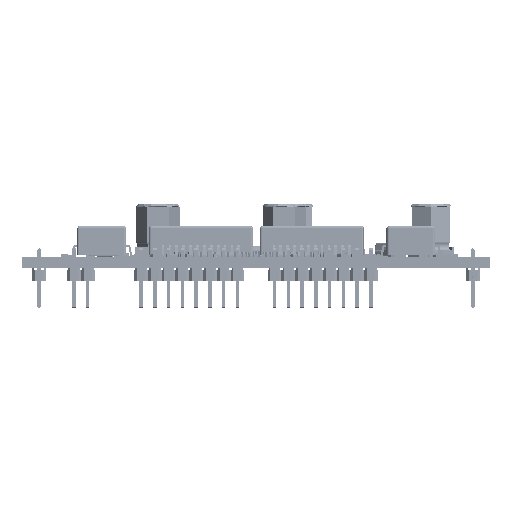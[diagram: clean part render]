
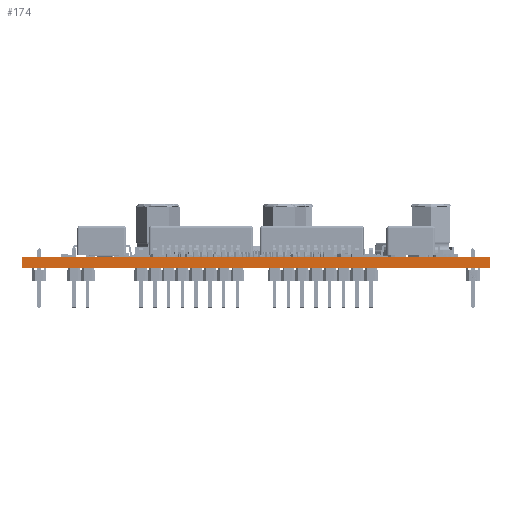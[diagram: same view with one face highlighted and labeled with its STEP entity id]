
A CAD part, front view. The second image highlights one B-rep face of the part: STEP entity #174.
In plain terms, the highlighted planar face has unit normal (0, -1, 0).
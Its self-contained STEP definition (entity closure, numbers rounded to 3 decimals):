
#119=CARTESIAN_POINT('',(67.987,0.013,1.6));
#120=VERTEX_POINT('',#119);
#127=CARTESIAN_POINT('',(67.987,0.013,0.));
#128=VERTEX_POINT('',#127);
#129=CARTESIAN_POINT('',(67.987,0.013,1.6));
#130=DIRECTION('',(0.,0.,-1.));
#131=VECTOR('',#130,1.6);
#132=LINE('',#129,#131);
#133=EDGE_CURVE('',#120,#128,#132,.T.);
#144=CARTESIAN_POINT('',(67.987,0.013,0.));
#145=DIRECTION('',(-1.,0.,0.));
#146=DIRECTION('',(-0.,-1.,-0.));
#147=AXIS2_PLACEMENT_3D('',#144,#146,#145);
#148=PLANE('',#147);
#149=ORIENTED_EDGE('',*,*,#133,.F.);
#150=CARTESIAN_POINT('',(0.013,0.013,1.6));
#151=VERTEX_POINT('',#150);
#152=CARTESIAN_POINT('',(67.987,0.013,1.6));
#153=DIRECTION('',(-1.,0.,0.));
#154=VECTOR('',#153,67.975);
#155=LINE('',#152,#154);
#156=EDGE_CURVE('',#120,#151,#155,.T.);
#157=ORIENTED_EDGE('E5',*,*,#156,.T.);
#158=CARTESIAN_POINT('',(0.013,0.013,0.));
#159=VERTEX_POINT('',#158);
#160=CARTESIAN_POINT('',(0.013,0.013,1.6));
#161=DIRECTION('',(0.,0.,-1.));
#162=VECTOR('',#161,1.6);
#163=LINE('',#160,#162);
#164=EDGE_CURVE('',#151,#159,#163,.T.);
#165=ORIENTED_EDGE('E6',*,*,#164,.T.);
#166=CARTESIAN_POINT('',(0.013,0.013,0.));
#167=DIRECTION('',(1.,0.,0.));
#168=VECTOR('',#167,67.975);
#169=LINE('',#166,#168);
#170=EDGE_CURVE('',#159,#128,#169,.T.);
#171=ORIENTED_EDGE('E7',*,*,#170,.T.);
#172=EDGE_LOOP('',(#149,#157,#165,#171));
#173=FACE_OUTER_BOUND('',#172,.T.);
#174=ADVANCED_FACE('F2',(#173),#148,.T.);
